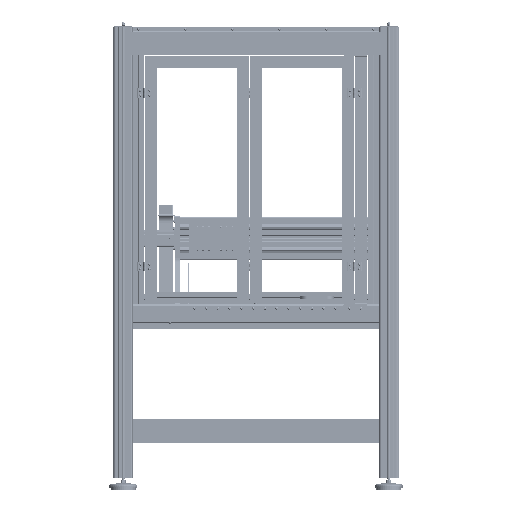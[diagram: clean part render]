
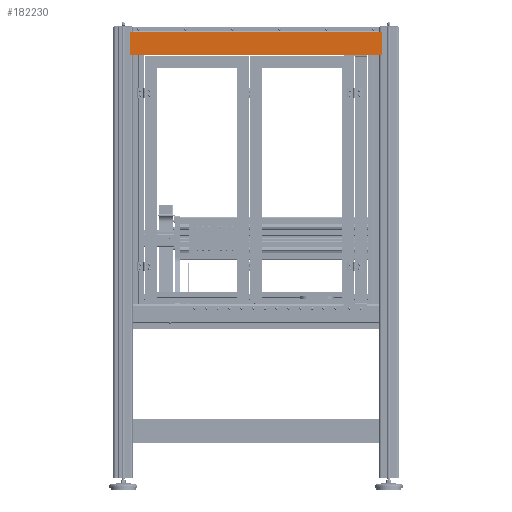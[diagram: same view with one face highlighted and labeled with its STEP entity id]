
A CAD part, top view. The second image highlights one B-rep face of the part: STEP entity #182230.
In plain terms, the highlighted planar face has unit normal (0, 0, 1).
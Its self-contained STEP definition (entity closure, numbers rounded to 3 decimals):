
#13283 = CARTESIAN_POINT ( 'NONE',  ( 524., 1165.9, 475.499 ) ) ;
#13643 = CARTESIAN_POINT ( 'NONE',  ( 524., 1066.5, 475.499 ) ) ;
#32395 = VERTEX_POINT ( 'NONE', #233801 ) ;
#57625 = EDGE_LOOP ( 'NONE', ( #532924, #573466, #90327, #110709, #122662, #200082, #499424, #112828 ) ) ;
#76816 = EDGE_CURVE ( 'NONE', #539584, #32395, #164263, .T. ) ;
#90327 = ORIENTED_EDGE ( 'NONE', *, *, #291356, .T. ) ;
#99561 = VERTEX_POINT ( 'NONE', #344763 ) ;
#101825 = DIRECTION ( 'NONE',  ( 1., 0., 0. ) ) ;
#106607 = DIRECTION ( 'NONE',  ( 0., 0., -1. ) ) ;
#110709 = ORIENTED_EDGE ( 'NONE', *, *, #369302, .T. ) ;
#112828 = ORIENTED_EDGE ( 'NONE', *, *, #76816, .T. ) ;
#113808 = CARTESIAN_POINT ( 'NONE',  ( -524., 1069.6, 475.499 ) ) ;
#122662 = ORIENTED_EDGE ( 'NONE', *, *, #402146, .F. ) ;
#145440 = LINE ( 'NONE', #13283, #145544 ) ;
#145544 = VECTOR ( 'NONE', #336940, 1000. ) ;
#147199 = CARTESIAN_POINT ( 'NONE',  ( 534., 1069.6, 475.499 ) ) ;
#161409 = VECTOR ( 'NONE', #101825, 1000. ) ;
#161747 = CARTESIAN_POINT ( 'NONE',  ( -534., 1069.6, 475.499 ) ) ;
#164263 = LINE ( 'NONE', #563515, #161409 ) ;
#165899 = CARTESIAN_POINT ( 'NONE',  ( -524., 1165.9, 475.499 ) ) ;
#182230 = ADVANCED_FACE ( 'NONE', ( #347810 ), #568345, .F. ) ;
#200082 = ORIENTED_EDGE ( 'NONE', *, *, #484028, .T. ) ;
#212483 = DIRECTION ( 'NONE',  ( -1., 0., 0. ) ) ;
#214652 = CARTESIAN_POINT ( 'NONE',  ( 524., 1165.9, 475.499 ) ) ;
#219664 = CARTESIAN_POINT ( 'NONE',  ( 534., 1165.9, 475.499 ) ) ;
#233801 = CARTESIAN_POINT ( 'NONE',  ( -524., 1069.6, 475.499 ) ) ;
#259922 = CARTESIAN_POINT ( 'NONE',  ( 524., 1165.9, 475.499 ) ) ;
#260710 = CARTESIAN_POINT ( 'NONE',  ( -534., 1165.9, 475.499 ) ) ;
#261243 = DIRECTION ( 'NONE',  ( -1., 0., 0. ) ) ;
#291356 = EDGE_CURVE ( 'NONE', #537744, #321063, #531568, .T. ) ;
#297993 = DIRECTION ( 'NONE',  ( 1., 0., 0. ) ) ;
#311299 = EDGE_CURVE ( 'NONE', #532629, #539584, #418803, .T. ) ;
#321063 = VERTEX_POINT ( 'NONE', #219664 ) ;
#323076 = EDGE_CURVE ( 'NONE', #32395, #522107, #376278, .T. ) ;
#330204 = CARTESIAN_POINT ( 'NONE',  ( 534., 1069.6, 475.499 ) ) ;
#336940 = DIRECTION ( 'NONE',  ( 1., 0., 0. ) ) ;
#344763 = CARTESIAN_POINT ( 'NONE',  ( -524., 1165.9, 475.499 ) ) ;
#345920 = DIRECTION ( 'NONE',  ( 0., -1., 0. ) ) ;
#347810 = FACE_OUTER_BOUND ( 'NONE', #57625, .T. ) ;
#354175 = AXIS2_PLACEMENT_3D ( 'NONE', #13643, #106607, #430636 ) ;
#369302 = EDGE_CURVE ( 'NONE', #321063, #373327, #469398, .T. ) ;
#372697 = VECTOR ( 'NONE', #297993, 1000. ) ;
#373327 = VERTEX_POINT ( 'NONE', #259922 ) ;
#376278 = LINE ( 'NONE', #113808, #372697 ) ;
#378022 = DIRECTION ( 'NONE',  ( 0., 1., 0. ) ) ;
#402146 = EDGE_CURVE ( 'NONE', #99561, #373327, #145440, .T. ) ;
#413383 = VECTOR ( 'NONE', #345920, 1000. ) ;
#418803 = LINE ( 'NONE', #161747, #413383 ) ;
#424905 = CARTESIAN_POINT ( 'NONE',  ( 524., 1069.6, 475.499 ) ) ;
#430636 = DIRECTION ( 'NONE',  ( 1., 0., 0. ) ) ;
#447053 = DIRECTION ( 'NONE',  ( 1., 0., 0. ) ) ;
#467135 = VECTOR ( 'NONE', #261243, 1000. ) ;
#469351 = VECTOR ( 'NONE', #212483, 1000. ) ;
#469398 = LINE ( 'NONE', #214652, #467135 ) ;
#472483 = LINE ( 'NONE', #165899, #469351 ) ;
#477331 = EDGE_CURVE ( 'NONE', #522107, #537744, #478643, .T. ) ;
#478643 = LINE ( 'NONE', #584716, #479205 ) ;
#479205 = VECTOR ( 'NONE', #447053, 1000. ) ;
#484028 = EDGE_CURVE ( 'NONE', #99561, #532629, #472483, .T. ) ;
#499424 = ORIENTED_EDGE ( 'NONE', *, *, #311299, .T. ) ;
#522107 = VERTEX_POINT ( 'NONE', #424905 ) ;
#526868 = CARTESIAN_POINT ( 'NONE',  ( -534., 1069.6, 475.499 ) ) ;
#529815 = VECTOR ( 'NONE', #378022, 1000. ) ;
#531568 = LINE ( 'NONE', #147199, #529815 ) ;
#532629 = VERTEX_POINT ( 'NONE', #260710 ) ;
#532924 = ORIENTED_EDGE ( 'NONE', *, *, #323076, .T. ) ;
#537744 = VERTEX_POINT ( 'NONE', #330204 ) ;
#539584 = VERTEX_POINT ( 'NONE', #526868 ) ;
#563515 = CARTESIAN_POINT ( 'NONE',  ( -524., 1069.6, 475.499 ) ) ;
#568345 = PLANE ( 'NONE',  #354175 ) ;
#573466 = ORIENTED_EDGE ( 'NONE', *, *, #477331, .T. ) ;
#584716 = CARTESIAN_POINT ( 'NONE',  ( 524., 1069.6, 475.499 ) ) ;
